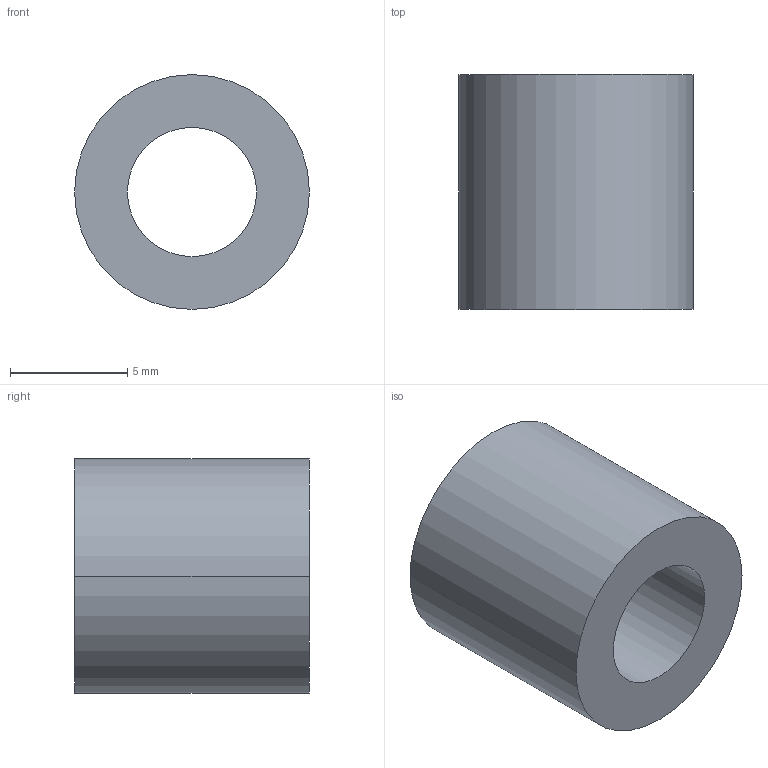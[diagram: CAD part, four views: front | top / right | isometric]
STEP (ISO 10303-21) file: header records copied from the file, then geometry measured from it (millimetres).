
FILE_DESCRIPTION (( 'STEP AP203' ), '1' );
FILE_NAME ('30800.WPP10D5.5.step', '2019-01-23T22:23:12', ( '' ), ( '' ), 'SwSTEP 2.0', 'SolidWorks 2017', '' );
FILE_SCHEMA (( 'CONFIG_CONTROL_DESIGN' ));
Length unit declared in the file: millimetre
Products named in the file (1): 30800.WPP10D5.5
Bounding box: 10 x 10 x 10 mm (x, y, z)
Volume: 538.5 mm3; surface area: 586.4 mm2
Topology: 1 solids, 1 shells, 8 faces, 16 edges, 10 vertices
Faces by surface type: cylinder 4, torus 2, plane 2
Entity records: 297 total; most frequent: DIRECTION 46, CARTESIAN_POINT 35, ORIENTED_EDGE 32, AXIS2_PLACEMENT_3D 21, EDGE_CURVE 16, CIRCLE 12, VERTEX_POINT 10, EDGE_LOOP 10
